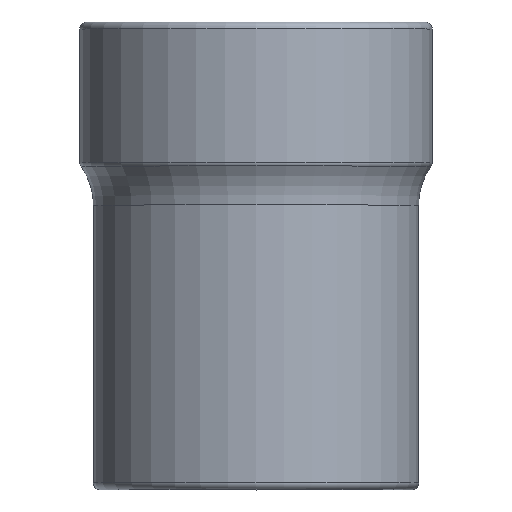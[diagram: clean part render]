
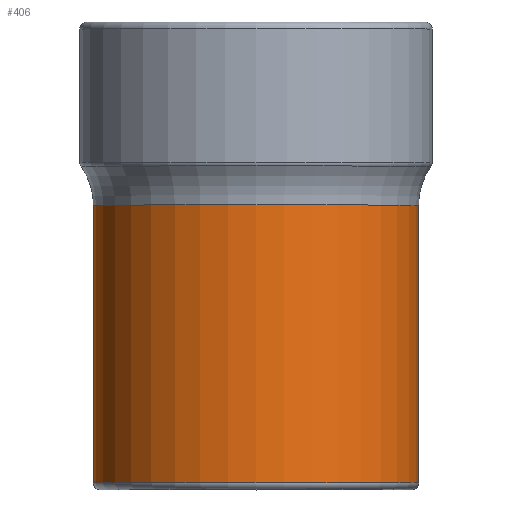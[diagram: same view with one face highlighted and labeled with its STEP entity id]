
A CAD part, top view. The second image highlights one B-rep face of the part: STEP entity #406.
In plain terms, the highlighted cylindrical face has radius 12 mm (diameter 24 mm), a full revolution.
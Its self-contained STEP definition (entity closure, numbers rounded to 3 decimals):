
#70=CYLINDRICAL_SURFACE($,#444,12.);
#104=FACE_BOUND($,#152,.T.);
#120=FACE_OUTER_BOUND($,#151,.T.);
#151=EDGE_LOOP($,(#307));
#152=EDGE_LOOP($,(#308));
#183=CIRCLE($,#442,12.);
#185=CIRCLE($,#445,12.);
#208=VERTEX_POINT($,#641);
#210=VERTEX_POINT($,#646);
#247=EDGE_CURVE($,#208,#208,#183,.T.);
#249=EDGE_CURVE($,#210,#210,#185,.T.);
#307=ORIENTED_EDGE($,*,*,#249,.F.);
#308=ORIENTED_EDGE($,*,*,#247,.F.);
#406=ADVANCED_FACE($,(#120,#104),#70,.T.);
#442=AXIS2_PLACEMENT_3D($,#642,#503,#504);
#444=AXIS2_PLACEMENT_3D($,#645,#507,#508);
#445=AXIS2_PLACEMENT_3D($,#647,#509,#510);
#503=DIRECTION('center_axis',(0.,-1.,0.));
#504=DIRECTION('ref_axis',(1.,0.,0.));
#507=DIRECTION('center_axis',(0.,1.,0.));
#508=DIRECTION('ref_axis',(1.,0.,0.));
#509=DIRECTION('center_axis',(0.,1.,0.));
#510=DIRECTION('ref_axis',(1.,0.,0.));
#641=CARTESIAN_POINT('',(-12.,0.5,0.));
#642=CARTESIAN_POINT('Origin',(0.,0.5,0.));
#645=CARTESIAN_POINT('Origin',(0.,0.,0.));
#646=CARTESIAN_POINT('',(-12.,21.,0.));
#647=CARTESIAN_POINT('Origin',(0.,21.,0.));
